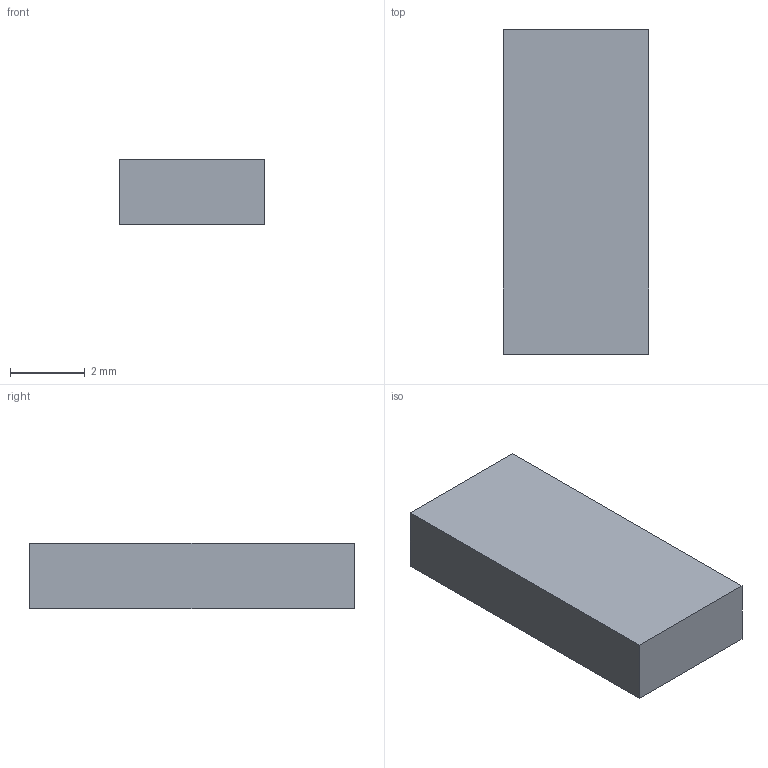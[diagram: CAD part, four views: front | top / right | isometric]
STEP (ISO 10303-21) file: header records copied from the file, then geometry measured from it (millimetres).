
FILE_DESCRIPTION(('SOIC-14, 3.9 x 8.7 mm body, 1.27 mm pitch -- body envelope 1.75 mm tall (not used from Rev C; kept for Rev B)'),'2;1');
FILE_NAME('SOIC-14_3.9x8.7mm_P1.27mm','2026-09-08T00:00:00',('TI One Voice research programme'),(''),'EEG-CAR-01 step_write.py','','CC BY-SA 4.0');
FILE_SCHEMA(('AUTOMOTIVE_DESIGN { 1 0 10303 214 1 1 1 1 }'));
Length unit declared in the file: millimetre
Products named in the file (1): SOIC-14_3.9x8.7mm_P1.27mm
Bounding box: 3.9 x 8.7 x 1.75 mm (x, y, z)
Volume: 59.4 mm3; surface area: 112 mm2
Topology: 1 solids, 1 shells, 6 faces, 12 edges, 8 vertices
Faces by surface type: plane 6
Entity records: 67 total; most frequent: DIRECTION 14, CARTESIAN_POINT 9, AXIS2_PLACEMENT_3D 7, POLY_LOOP 6, FACE_OUTER_BOUND 6, PLANE 6, FACE_SURFACE 6, UNCERTAINTY_MEASURE_WITH_UNIT 1
